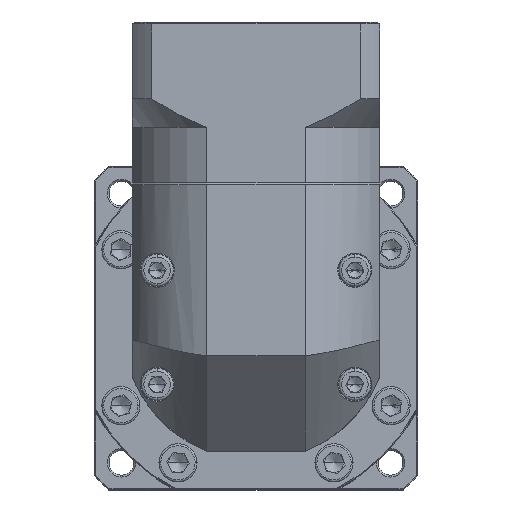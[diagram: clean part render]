
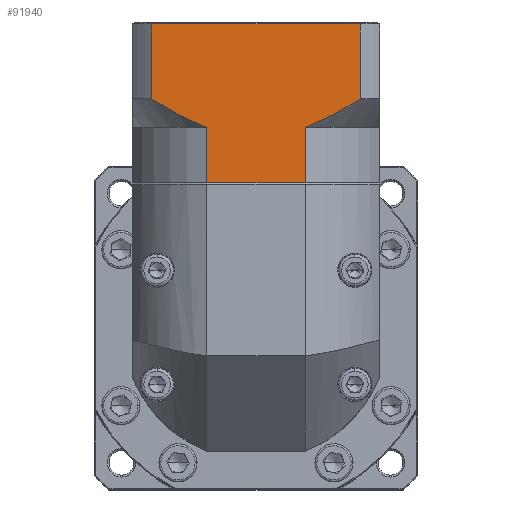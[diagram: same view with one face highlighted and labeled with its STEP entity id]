
A CAD part, top view. The second image highlights one B-rep face of the part: STEP entity #91940.
In plain terms, the highlighted planar face has unit normal (0, 0, 1).
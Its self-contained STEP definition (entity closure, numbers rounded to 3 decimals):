
#472 = CARTESIAN_POINT ( 'NONE',  ( -115.032, 65.487, 56.231 ) ) ;
#1869 = FACE_OUTER_BOUND ( 'NONE', #131390, .T. ) ;
#4201 = DIRECTION ( 'NONE',  ( 1., 0., 0. ) ) ;
#6616 = DIRECTION ( 'NONE',  ( 0., 0., -1. ) ) ;
#6674 = CARTESIAN_POINT ( 'NONE',  ( -69.635, 60.128, 56.231 ) ) ;
#7131 = CARTESIAN_POINT ( 'NONE',  ( -112.742, 64.039, 56.231 ) ) ;
#8235 = ORIENTED_EDGE ( 'NONE', *, *, #77918, .T. ) ;
#8540 = CARTESIAN_POINT ( 'NONE',  ( -103.174, 58.929, 56.231 ) ) ;
#8765 = EDGE_CURVE ( 'NONE', #49088, #16744, #115030, .T. ) ;
#10099 = ORIENTED_EDGE ( 'NONE', *, *, #32719, .F. ) ;
#11666 = CARTESIAN_POINT ( 'NONE',  ( -100.636, 43.487, 56.231 ) ) ;
#12145 = CARTESIAN_POINT ( 'NONE',  ( -120.145, 85.187, 56.231 ) ) ;
#14157 = VECTOR ( 'NONE', #128962, 1000. ) ;
#14837 = VECTOR ( 'NONE', #34207, 1000. ) ;
#15427 = VERTEX_POINT ( 'NONE', #130353 ) ;
#16639 = CARTESIAN_POINT ( 'NONE',  ( -71.489, 59.278, 56.231 ) ) ;
#16744 = VERTEX_POINT ( 'NONE', #120439 ) ;
#17582 = CARTESIAN_POINT ( 'NONE',  ( -73.374, 58.478, 56.231 ) ) ;
#22141 = B_SPLINE_CURVE_WITH_KNOTS ( 'NONE', 3,
 ( #112656, #103714, #17582, #92006, #16639, #6674, #92931, #114051, #102313, #80683 ),
 .UNSPECIFIED., .F., .F.,
 ( 4, 2, 2, 2, 4 ),
 ( 0.101, 0.103, 0.105, 0.109, 0.117 ),
 .UNSPECIFIED. ) ;
#30191 = CARTESIAN_POINT ( 'NONE',  ( -105.626, 60.074, 56.231 ) ) ;
#32719 = EDGE_CURVE ( 'NONE', #103834, #33419, #88359, .T. ) ;
#33048 = VECTOR ( 'NONE', #4201, 1000. ) ;
#33419 = VERTEX_POINT ( 'NONE', #52287 ) ;
#33529 = DIRECTION ( 'NONE',  ( 0., -1., 0. ) ) ;
#34207 = DIRECTION ( 'NONE',  ( -1., 0., 0. ) ) ;
#34938 = CARTESIAN_POINT ( 'NONE',  ( -74.655, 57.987, 56.231 ) ) ;
#41376 = CARTESIAN_POINT ( 'NONE',  ( -115.032, 57.987, 56.231 ) ) ;
#47675 = VECTOR ( 'NONE', #51444, 1000. ) ;
#49088 = VERTEX_POINT ( 'NONE', #119926 ) ;
#51444 = DIRECTION ( 'NONE',  ( 0., -1., 0. ) ) ;
#52287 = CARTESIAN_POINT ( 'NONE',  ( -100.636, 57.987, 56.231 ) ) ;
#52699 = CARTESIAN_POINT ( 'NONE',  ( -100.636, 57.987, 56.231 ) ) ;
#54948 = VERTEX_POINT ( 'NONE', #79653 ) ;
#56913 = VERTEX_POINT ( 'NONE', #76343 ) ;
#58554 = LINE ( 'NONE', #12145, #14837 ) ;
#59361 = PLANE ( 'NONE',  #98272 ) ;
#60133 = EDGE_CURVE ( 'NONE', #103834, #56913, #61734, .T. ) ;
#61734 = LINE ( 'NONE', #79081, #33048 ) ;
#64190 = ORIENTED_EDGE ( 'NONE', *, *, #60133, .T. ) ;
#65757 = EDGE_CURVE ( 'NONE', #133949, #33419, #102031, .T. ) ;
#67606 = ORIENTED_EDGE ( 'NONE', *, *, #71909, .T. ) ;
#71909 = EDGE_CURVE ( 'NONE', #49088, #15427, #58554, .T. ) ;
#73318 = ORIENTED_EDGE ( 'NONE', *, *, #8765, .F. ) ;
#75676 = EDGE_CURVE ( 'NONE', #54948, #56913, #95364, .T. ) ;
#76343 = CARTESIAN_POINT ( 'NONE',  ( -74.655, 43.487, 56.231 ) ) ;
#77918 = EDGE_CURVE ( 'NONE', #54948, #16744, #22141, .T. ) ;
#79081 = CARTESIAN_POINT ( 'NONE',  ( -120.145, 43.487, 56.231 ) ) ;
#79653 = CARTESIAN_POINT ( 'NONE',  ( -74.655, 57.987, 56.231 ) ) ;
#80683 = CARTESIAN_POINT ( 'NONE',  ( -60.259, 65.487, 56.231 ) ) ;
#81146 = CARTESIAN_POINT ( 'NONE',  ( -113.893, 64.754, 56.231 ) ) ;
#88359 = LINE ( 'NONE', #52699, #14157 ) ;
#91940 = ADVANCED_FACE ( 'NONE', ( #1869 ), #59361, .F. ) ;
#92006 = CARTESIAN_POINT ( 'NONE',  ( -72.113, 59.004, 56.231 ) ) ;
#92931 = CARTESIAN_POINT ( 'NONE',  ( -68.423, 60.733, 56.231 ) ) ;
#95364 = LINE ( 'NONE', #34938, #135696 ) ;
#95721 = CARTESIAN_POINT ( 'NONE',  ( -100.636, 57.987, 56.231 ) ) ;
#98146 = ORIENTED_EDGE ( 'NONE', *, *, #75676, .F. ) ;
#98272 = AXIS2_PLACEMENT_3D ( 'NONE', #134279, #6616, #112593 ) ;
#102031 = B_SPLINE_CURVE_WITH_KNOTS ( 'NONE', 3,
 ( #125381, #81146, #7131, #102765, #114944, #30191, #8540, #95721 ),
 .UNSPECIFIED., .F., .F.,
 ( 4, 2, 2, 4 ),
 ( 0.058, 0.062, 0.066, 0.074 ),
 .UNSPECIFIED. ) ;
#102313 = CARTESIAN_POINT ( 'NONE',  ( -62.528, 64.026, 56.231 ) ) ;
#102765 = CARTESIAN_POINT ( 'NONE',  ( -110.407, 62.654, 56.231 ) ) ;
#103714 = CARTESIAN_POINT ( 'NONE',  ( -74.013, 58.226, 56.231 ) ) ;
#103834 = VERTEX_POINT ( 'NONE', #11666 ) ;
#104442 = DIRECTION ( 'NONE',  ( 0., 1., 0. ) ) ;
#112593 = DIRECTION ( 'NONE',  ( 0., 1., 0. ) ) ;
#112656 = CARTESIAN_POINT ( 'NONE',  ( -74.655, 57.987, 56.231 ) ) ;
#113926 = VECTOR ( 'NONE', #104442, 1000. ) ;
#114051 = CARTESIAN_POINT ( 'NONE',  ( -64.842, 62.638, 56.231 ) ) ;
#114944 = CARTESIAN_POINT ( 'NONE',  ( -109.221, 61.984, 56.231 ) ) ;
#115030 = LINE ( 'NONE', #124908, #47675 ) ;
#115726 = ORIENTED_EDGE ( 'NONE', *, *, #117330, .F. ) ;
#117330 = EDGE_CURVE ( 'NONE', #133949, #15427, #127487, .T. ) ;
#119926 = CARTESIAN_POINT ( 'NONE',  ( -60.259, 85.187, 56.231 ) ) ;
#120439 = CARTESIAN_POINT ( 'NONE',  ( -60.259, 65.487, 56.231 ) ) ;
#124908 = CARTESIAN_POINT ( 'NONE',  ( -60.259, 57.987, 56.231 ) ) ;
#125381 = CARTESIAN_POINT ( 'NONE',  ( -115.032, 65.487, 56.231 ) ) ;
#127487 = LINE ( 'NONE', #41376, #113926 ) ;
#128962 = DIRECTION ( 'NONE',  ( 0., 1., 0. ) ) ;
#130353 = CARTESIAN_POINT ( 'NONE',  ( -115.032, 85.187, 56.231 ) ) ;
#131390 = EDGE_LOOP ( 'NONE', ( #73318, #67606, #115726, #135694, #10099, #64190, #98146, #8235 ) ) ;
#133949 = VERTEX_POINT ( 'NONE', #472 ) ;
#134279 = CARTESIAN_POINT ( 'NONE',  ( -120.145, 85.687, 56.231 ) ) ;
#135694 = ORIENTED_EDGE ( 'NONE', *, *, #65757, .T. ) ;
#135696 = VECTOR ( 'NONE', #33529, 1000. ) ;
